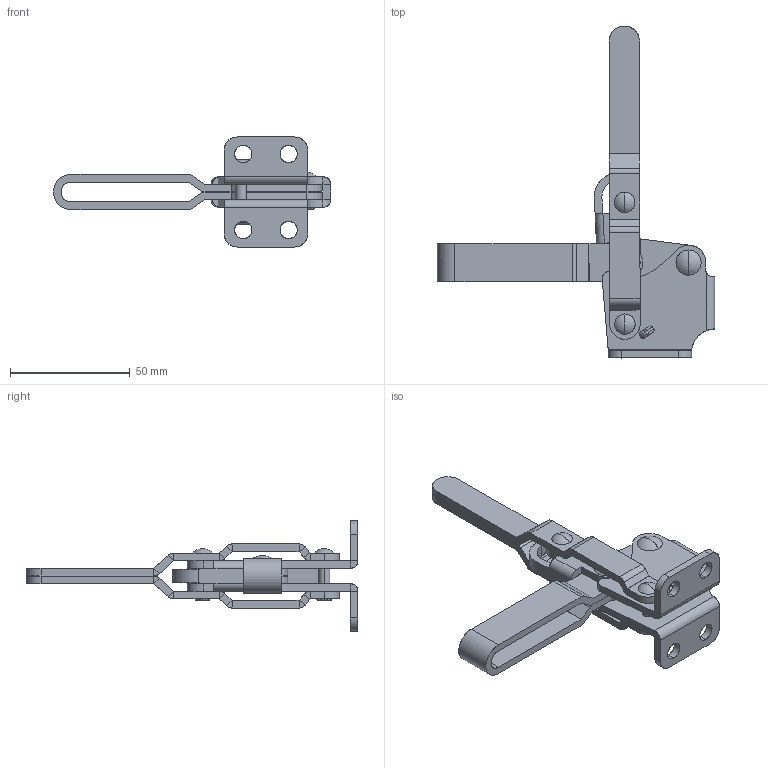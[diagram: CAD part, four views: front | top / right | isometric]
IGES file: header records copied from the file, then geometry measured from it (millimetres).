
Start section: SolidWorks IGES file using analytic representation for surfaces
Global section: file name: D:\GH Files\GH-SW-FILES\GH1\GH-12130\12130.IGS; native system: SolidWorks 2006 by SolidWorks Corporation; preprocessor: SolidWorks 2006 by SolidWorks Corporation; author: Administrator; date: 060705.113019; units: millimetre
Bounding box: 115.91 x 138.75 x 46 mm (x, y, z)
Surface area: 33111.4 mm2 (no closed solid volume)
Topology: 0 solids, 0 shells, 339 faces, 4293 edges, 4280 vertices
Faces by surface type: bspline 183, revolution 156
